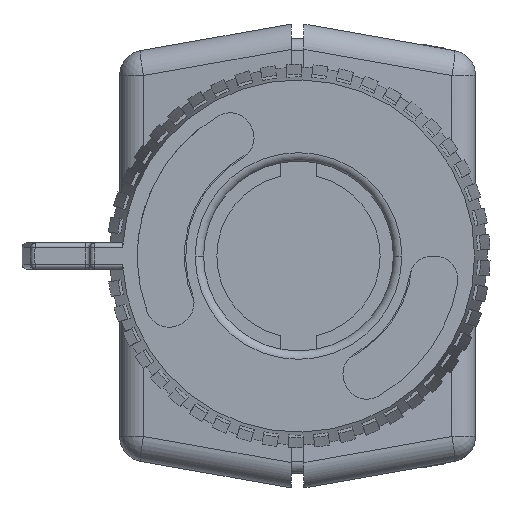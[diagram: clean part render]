
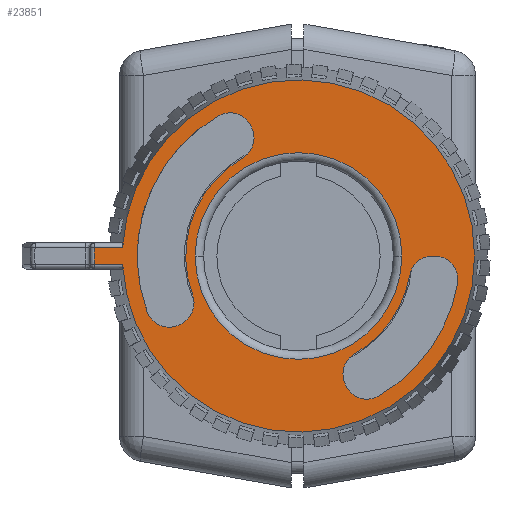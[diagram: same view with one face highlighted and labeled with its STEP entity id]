
A CAD part, left-side view. The second image highlights one B-rep face of the part: STEP entity #23851.
In plain terms, the highlighted planar face has unit normal (-1, 0, 0) as drawn and (0, 1, 0) by its records, which use the part's own axes.
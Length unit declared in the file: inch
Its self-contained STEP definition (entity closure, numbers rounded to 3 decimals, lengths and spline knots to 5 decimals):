
#16644=CARTESIAN_POINT('',(0.,0.,0.));
#16645=DIRECTION('',(0.,1.,0.));
#16646=DIRECTION('',(0.999,0.,-0.05));
#16647=AXIS2_PLACEMENT_3D('',#16644,#16645,#16646);
#18784=DIRECTION('',(-1.,0.,0.));
#18785=VECTOR('',#18784,0.06691);
#18786=CARTESIAN_POINT('',(0.48389,0.,0.021));
#18787=LINE('',#18786,#18785);
#18788=DIRECTION('',(-0.342,0.,-0.94));
#18789=VECTOR('',#18788,0.00507);
#18790=CARTESIAN_POINT('',(-0.10869,0.,-0.29861));
#18791=LINE('',#18790,#18789);
#18792=CARTESIAN_POINT('',(0.,0.,0.));
#18793=DIRECTION('',(0.,1.,0.));
#18794=DIRECTION('',(-0.495,0.,-0.869));
#18795=AXIS2_PLACEMENT_3D('',#18792,#18793,#18794);
#18797=DIRECTION('',(1.,0.,0.));
#18798=VECTOR('',#18797,0.00507);
#18799=CARTESIAN_POINT('',(-0.32285,0.,0.));
#18800=LINE('',#18799,#18798);
#18801=CARTESIAN_POINT('',(0.,0.,0.));
#18802=DIRECTION('',(0.,1.,0.));
#18803=DIRECTION('',(-0.497,0.,-0.868));
#18804=AXIS2_PLACEMENT_3D('',#18801,#18802,#18803);
#18806=DIRECTION('',(-0.866,0.,0.5));
#18807=VECTOR('',#18806,0.00507);
#18808=CARTESIAN_POINT('',(0.2796,0.,-0.16142));
#18809=LINE('',#18808,#18807);
#18810=CARTESIAN_POINT('',(0.,0.,0.));
#18811=DIRECTION('',(0.,1.,0.));
#18812=DIRECTION('',(0.497,0.,0.868));
#18813=AXIS2_PLACEMENT_3D('',#18810,#18811,#18812);
#18815=DIRECTION('',(0.342,0.,0.94));
#18816=VECTOR('',#18815,0.00507);
#18817=CARTESIAN_POINT('',(0.10869,0.,0.29861));
#18818=LINE('',#18817,#18816);
#18819=CARTESIAN_POINT('',(0.,0.,0.));
#18820=DIRECTION('',(0.,1.,0.));
#18821=DIRECTION('',(0.495,0.,0.869));
#18822=AXIS2_PLACEMENT_3D('',#18819,#18820,#18821);
#18824=CARTESIAN_POINT('',(0.,0.,0.));
#18825=DIRECTION('',(0.,-1.,0.));
#18826=DIRECTION('',(1.,0.,0.));
#18827=AXIS2_PLACEMENT_3D('',#18824,#18825,#18826);
#18844=CARTESIAN_POINT('',(0.,0.,0.));
#18845=DIRECTION('',(0.,-1.,0.));
#18846=DIRECTION('',(-1.,0.,0.));
#18847=AXIS2_PLACEMENT_3D('',#18844,#18845,#18846);
#18958=CARTESIAN_POINT('',(-0.16037,0.,-0.2798));
#18959=DIRECTION('',(0.,-1.,0.));
#18960=DIRECTION('',(0.94,0.,-0.342));
#18961=AXIS2_PLACEMENT_3D('',#18958,#18959,#18960);
#18976=CARTESIAN_POINT('',(-0.31778,0.,-0.055));
#18977=DIRECTION('',(0.,-1.,0.));
#18978=DIRECTION('',(0.985,0.,0.171));
#18979=AXIS2_PLACEMENT_3D('',#18976,#18977,#18978);
#18994=CARTESIAN_POINT('',(-0.32285,0.,-0.055));
#18995=DIRECTION('',(0.,-1.,0.));
#18996=DIRECTION('',(0.,0.,1.));
#18997=AXIS2_PLACEMENT_3D('',#18994,#18995,#18996);
#19012=CARTESIAN_POINT('',(-0.1621,0.,-0.28457));
#19013=DIRECTION('',(0.,-1.,0.));
#19014=DIRECTION('',(-0.495,0.,-0.869));
#19015=AXIS2_PLACEMENT_3D('',#19012,#19013,#19014);
#19030=CARTESIAN_POINT('',(0.3071,0.,-0.11379));
#19031=DIRECTION('',(0.,-1.,0.));
#19032=DIRECTION('',(-0.5,0.,-0.866));
#19033=AXIS2_PLACEMENT_3D('',#19030,#19031,#19032);
#19048=CARTESIAN_POINT('',(0.1621,0.,0.28457));
#19049=DIRECTION('',(0.,-1.,0.));
#19050=DIRECTION('',(0.495,0.,0.869));
#19051=AXIS2_PLACEMENT_3D('',#19048,#19049,#19050);
#19066=CARTESIAN_POINT('',(0.16037,0.,0.2798));
#19067=DIRECTION('',(0.,-1.,0.));
#19068=DIRECTION('',(-0.94,0.,0.342));
#19069=AXIS2_PLACEMENT_3D('',#19066,#19067,#19068);
#19084=CARTESIAN_POINT('',(0.3027,0.,-0.11126));
#19085=DIRECTION('',(0.,-1.,0.));
#19086=DIRECTION('',(-0.939,0.,0.345));
#19087=AXIS2_PLACEMENT_3D('',#19084,#19085,#19086);
#19234=DIRECTION('',(-1.,0.,0.));
#19235=VECTOR('',#19234,0.06691);
#19236=CARTESIAN_POINT('',(0.48389,0.,-0.021));
#19237=LINE('',#19236,#19235);
#19434=CARTESIAN_POINT('',(0.,0.,0.));
#19435=DIRECTION('',(0.,1.,0.));
#19436=DIRECTION('',(0.999,0.,0.043));
#19437=AXIS2_PLACEMENT_3D('',#19434,#19435,#19436);
#20388=CARTESIAN_POINT('',(-0.245,0.,0.));
#20389=CARTESIAN_POINT('',(0.245,0.,0.));
#20390=VERTEX_POINT('',#20388);
#20391=VERTEX_POINT('',#20389);
#20406=CARTESIAN_POINT('',(0.48389,0.,0.021));
#20407=CARTESIAN_POINT('',(0.48389,0.,-0.021));
#20408=VERTEX_POINT('',#20406);
#20409=VERTEX_POINT('',#20407);
#20455=CARTESIAN_POINT('',(0.41697,0.,-0.021));
#20456=VERTEX_POINT('',#20455);
#20459=CARTESIAN_POINT('',(0.41697,0.,0.021));
#20460=VERTEX_POINT('',#20459);
#20461=CARTESIAN_POINT('',(-0.18933,0.,-0.33236));
#20463=VERTEX_POINT('',#20461);
#20465=CARTESIAN_POINT('',(-0.11042,0.,-0.30338));
#20467=VERTEX_POINT('',#20465);
#20469=CARTESIAN_POINT('',(-0.10869,0.,-0.29861));
#20471=VERTEX_POINT('',#20469);
#20473=CARTESIAN_POINT('',(-0.13302,0.,-0.23208));
#20475=VERTEX_POINT('',#20473);
#20477=CARTESIAN_POINT('',(-0.26358,0.,-0.04562));
#20479=VERTEX_POINT('',#20477);
#20481=CARTESIAN_POINT('',(-0.31778,0.,0.));
#20483=VERTEX_POINT('',#20481);
#20485=CARTESIAN_POINT('',(-0.32285,0.,0.));
#20487=VERTEX_POINT('',#20485);
#20489=CARTESIAN_POINT('',(-0.37707,0.,-0.06424));
#20491=VERTEX_POINT('',#20489);
#20493=CARTESIAN_POINT('',(0.25108,0.,-0.09228));
#20495=VERTEX_POINT('',#20493);
#20497=CARTESIAN_POINT('',(0.2752,0.,-0.15889));
#20499=VERTEX_POINT('',#20497);
#20501=CARTESIAN_POINT('',(0.2796,0.,-0.16142));
#20503=VERTEX_POINT('',#20501);
#20505=CARTESIAN_POINT('',(0.35867,0.,-0.1329));
#20507=VERTEX_POINT('',#20505);
#20509=CARTESIAN_POINT('',(0.18933,0.,0.33236));
#20511=VERTEX_POINT('',#20509);
#20513=CARTESIAN_POINT('',(0.11042,0.,0.30338));
#20515=VERTEX_POINT('',#20513);
#20517=CARTESIAN_POINT('',(0.10869,0.,0.29861));
#20519=VERTEX_POINT('',#20517);
#20521=CARTESIAN_POINT('',(0.13302,0.,0.23208));
#20523=VERTEX_POINT('',#20521);
#23796=CARTESIAN_POINT('',(0.,0.,0.));
#23797=DIRECTION('',(0.,1.,0.));
#23798=DIRECTION('',(1.,0.,0.));
#23799=AXIS2_PLACEMENT_3D('',#23796,#23797,#23798);
#23800=PLANE('',#23799);
#23801=ORIENTED_EDGE('',*,*,#21102,.F.);
#23803=ORIENTED_EDGE('',*,*,#23802,.F.);
#23805=ORIENTED_EDGE('',*,*,#23804,.F.);
#23806=ORIENTED_EDGE('',*,*,#23789,.T.);
#23807=EDGE_LOOP('',(#23801,#23803,#23805,#23806));
#23808=FACE_OUTER_BOUND('',#23807,.F.);
#23810=ORIENTED_EDGE('',*,*,#23809,.F.);
#23812=ORIENTED_EDGE('',*,*,#23811,.F.);
#23813=EDGE_LOOP('',(#23810,#23812));
#23814=FACE_BOUND('',#23813,.F.);
#23816=ORIENTED_EDGE('',*,*,#23815,.T.);
#23818=ORIENTED_EDGE('',*,*,#23817,.F.);
#23820=ORIENTED_EDGE('',*,*,#23819,.T.);
#23822=ORIENTED_EDGE('',*,*,#23821,.F.);
#23824=ORIENTED_EDGE('',*,*,#23823,.T.);
#23826=ORIENTED_EDGE('',*,*,#23825,.F.);
#23828=ORIENTED_EDGE('',*,*,#23827,.F.);
#23830=ORIENTED_EDGE('',*,*,#23829,.F.);
#23831=EDGE_LOOP('',(#23816,#23818,#23820,#23822,#23824,#23826,#23828,#23830));
#23832=FACE_BOUND('',#23831,.F.);
#23834=ORIENTED_EDGE('',*,*,#23833,.T.);
#23836=ORIENTED_EDGE('',*,*,#23835,.F.);
#23838=ORIENTED_EDGE('',*,*,#23837,.F.);
#23840=ORIENTED_EDGE('',*,*,#23839,.F.);
#23842=ORIENTED_EDGE('',*,*,#23841,.T.);
#23844=ORIENTED_EDGE('',*,*,#23843,.F.);
#23846=ORIENTED_EDGE('',*,*,#23845,.T.);
#23848=ORIENTED_EDGE('',*,*,#23847,.F.);
#23849=EDGE_LOOP('',(#23834,#23836,#23838,#23840,#23842,#23844,#23846,#23848));
#23850=FACE_BOUND('',#23849,.F.);
#23851=ADVANCED_FACE('',(#23808,#23814,#23832,#23850),#23800,.T.);
#16648=CIRCLE('',#16647,0.4175);
#18796=CIRCLE('',#18795,0.3825);
#18805=CIRCLE('',#18804,0.2675);
#18814=CIRCLE('',#18813,0.2675);
#18823=CIRCLE('',#18822,0.3825);
#18828=CIRCLE('',#18827,0.245);
#18848=CIRCLE('',#18847,0.245);
#18962=CIRCLE('',#18961,0.055);
#18980=CIRCLE('',#18979,0.055);
#18998=CIRCLE('',#18997,0.055);
#19016=CIRCLE('',#19015,0.055);
#19034=CIRCLE('',#19033,0.055);
#19052=CIRCLE('',#19051,0.055);
#19070=CIRCLE('',#19069,0.055);
#19088=CIRCLE('',#19087,0.055);
#19438=CIRCLE('',#19437,0.48434);
#21102=EDGE_CURVE('',#20456,#20460,#16648,.T.);
#23789=EDGE_CURVE('',#20408,#20460,#18787,.T.);
#23802=EDGE_CURVE('',#20409,#20456,#19237,.T.);
#23804=EDGE_CURVE('',#20408,#20409,#19438,.T.);
#23809=EDGE_CURVE('',#20391,#20390,#18828,.T.);
#23811=EDGE_CURVE('',#20390,#20391,#18848,.T.);
#23815=EDGE_CURVE('',#20471,#20467,#18791,.T.);
#23817=EDGE_CURVE('',#20463,#20467,#19016,.T.);
#23819=EDGE_CURVE('',#20463,#20491,#18796,.T.);
#23821=EDGE_CURVE('',#20487,#20491,#18998,.T.);
#23823=EDGE_CURVE('',#20487,#20483,#18800,.T.);
#23825=EDGE_CURVE('',#20479,#20483,#18980,.T.);
#23827=EDGE_CURVE('',#20475,#20479,#18805,.T.);
#23829=EDGE_CURVE('',#20471,#20475,#18962,.T.);
#23833=EDGE_CURVE('',#20503,#20499,#18809,.T.);
#23835=EDGE_CURVE('',#20495,#20499,#19088,.T.);
#23837=EDGE_CURVE('',#20523,#20495,#18814,.T.);
#23839=EDGE_CURVE('',#20519,#20523,#19070,.T.);
#23841=EDGE_CURVE('',#20519,#20515,#18818,.T.);
#23843=EDGE_CURVE('',#20511,#20515,#19052,.T.);
#23845=EDGE_CURVE('',#20511,#20507,#18823,.T.);
#23847=EDGE_CURVE('',#20503,#20507,#19034,.T.);
